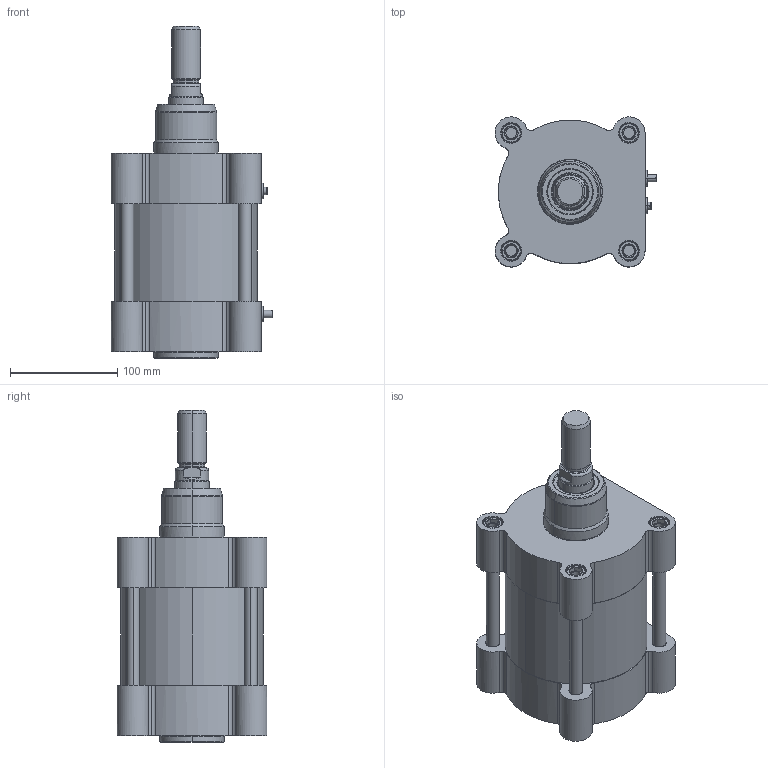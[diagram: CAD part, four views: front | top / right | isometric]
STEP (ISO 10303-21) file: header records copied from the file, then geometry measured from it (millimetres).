
FILE_DESCRIPTION (( 'STEP AP203' ), '1' );
FILE_NAME ('CTMI125-25.STEP', '2020-03-27T10:03:59', ( '' ), ( '' ), 'SwSTEP 2.0', 'SolidWorks 2019', '' );
FILE_SCHEMA (( 'CONFIG_CONTROL_DESIGN' ));
Length unit declared in the file: millimetre
Products named in the file (1): CTMI125-25
Bounding box: 151.08 x 140 x 310 mm (x, y, z)
Surface area: 323904.1 mm2 (no closed solid volume)
Topology: 0 solids, 23 shells, 767 faces, 1776 edges, 1092 vertices
Faces by surface type: cone 284, cylinder 218, plane 193, torus 56, bspline 16
Entity records: 35882 total; most frequent: CARTESIAN_POINT 20959, ORIENTED_EDGE 3504, DIRECTION 2178, EDGE_CURVE 1776, B_SPLINE_CURVE_WITH_KNOTS 1176, VERTEX_POINT 1092, AXIS2_PLACEMENT_3D 874, EDGE_LOOP 860
